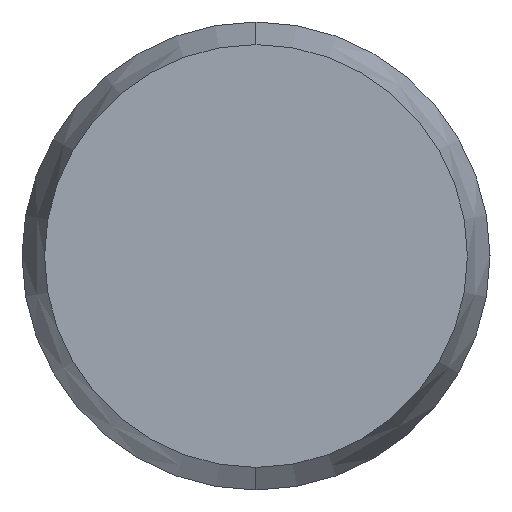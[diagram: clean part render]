
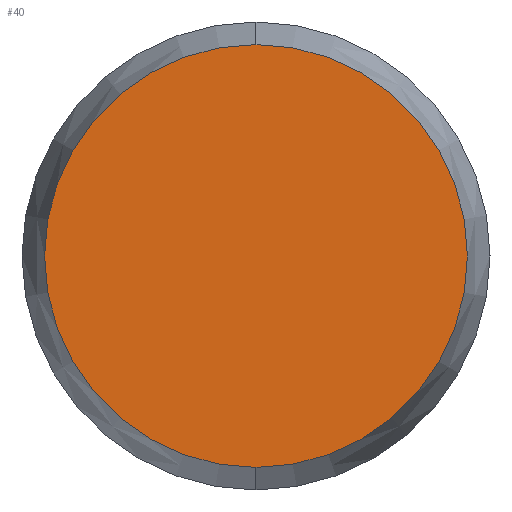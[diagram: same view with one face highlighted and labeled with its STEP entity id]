
A CAD part, left-side view. The second image highlights one B-rep face of the part: STEP entity #40.
In plain terms, the highlighted planar face has unit normal (-1, 0, 0).
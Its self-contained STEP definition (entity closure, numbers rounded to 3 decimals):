
#20 = EDGE_CURVE ( 'NONE', #21, #22, #90, .T. ) ;
#21 = VERTEX_POINT ( 'NONE', #82 ) ;
#22 = VERTEX_POINT ( 'NONE', #81 ) ;
#33 = EDGE_CURVE ( 'NONE', #22, #21, #137, .T. ) ;
#40 = ADVANCED_FACE ( 'NONE', ( #189 ), #193, .F. ) ;
#41 = EDGE_LOOP ( 'NONE', ( #42, #43 ) ) ;
#42 = ORIENTED_EDGE ( 'NONE', *, *, #20, .F. ) ;
#43 = ORIENTED_EDGE ( 'NONE', *, *, #33, .F. ) ;
#81 = CARTESIAN_POINT ( 'NONE',  ( -4., 0., -1.129 ) ) ;
#82 = CARTESIAN_POINT ( 'NONE',  ( -4., 0., 1.129 ) ) ;
#83 = DIRECTION ( 'NONE',  ( 0., 0., -1. ) ) ;
#84 = DIRECTION ( 'NONE',  ( 1., 0., 0. ) ) ;
#85 = CARTESIAN_POINT ( 'NONE',  ( -4., 0., 0. ) ) ;
#86 = AXIS2_PLACEMENT_3D ( 'NONE', #85, #84, #83 ) ;
#90 = CIRCLE ( 'NONE', #86, 1.129 ) ;
#131 = CARTESIAN_POINT ( 'NONE',  ( -4., 0., 0. ) ) ;
#132 = AXIS2_PLACEMENT_3D ( 'NONE', #131, #198, #197 ) ;
#137 = CIRCLE ( 'NONE', #132, 1.129 ) ;
#184 = DIRECTION ( 'NONE',  ( 0., 0., -1. ) ) ;
#185 = DIRECTION ( 'NONE',  ( 1., 0., 0. ) ) ;
#187 = CARTESIAN_POINT ( 'NONE',  ( -4., 0., 0. ) ) ;
#188 = AXIS2_PLACEMENT_3D ( 'NONE', #187, #185, #184 ) ;
#189 = FACE_OUTER_BOUND ( 'NONE', #41, .T. ) ;
#193 = PLANE ( 'NONE',  #188 ) ;
#197 = DIRECTION ( 'NONE',  ( 0., 0., -1. ) ) ;
#198 = DIRECTION ( 'NONE',  ( 1., 0., 0. ) ) ;
